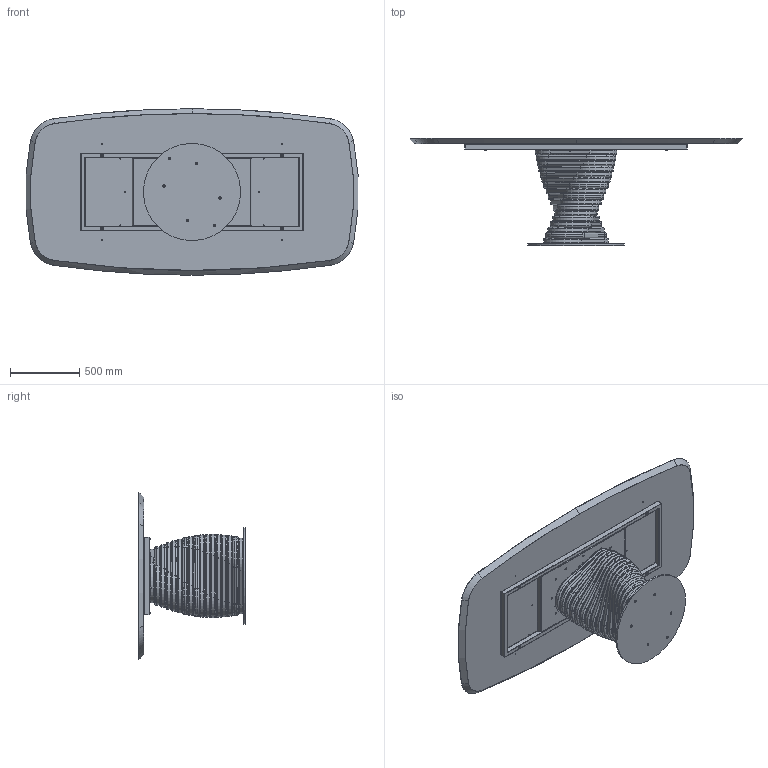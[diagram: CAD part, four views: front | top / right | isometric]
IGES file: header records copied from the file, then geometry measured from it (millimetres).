
Start section: SolidWorks IGES file using analytic representation for surfaces
Global section: file name: Y:\eforma\TECNICO\SOLIDWORKS\E-FORMA\1-TAVOLI\ROTOLO\02 parts\RO43W.IGS; native system: SolidWorks 2022; preprocessor: SolidWorks 2022; author: eforma.tech; date: 240807.153815; units: millimetre
Bounding box: 2391.9 x 770 x 1200 mm (x, y, z)
Volume: 110132762.9 mm3; surface area: 13277044.9 mm2
Topology: 94 solids, 94 shells, 1691 faces, 4018 edges, 2470 vertices
Faces by surface type: revolution 1037, plane 654
